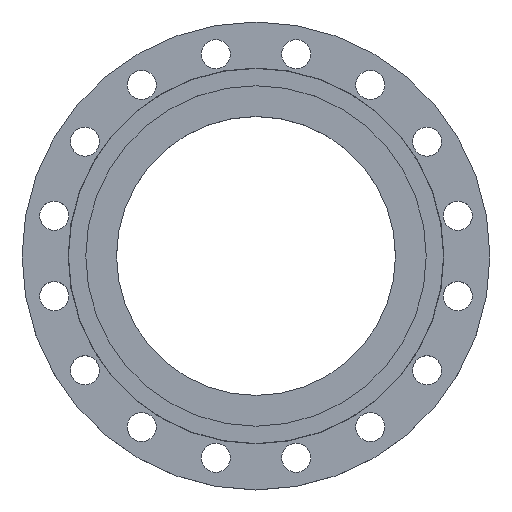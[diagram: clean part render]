
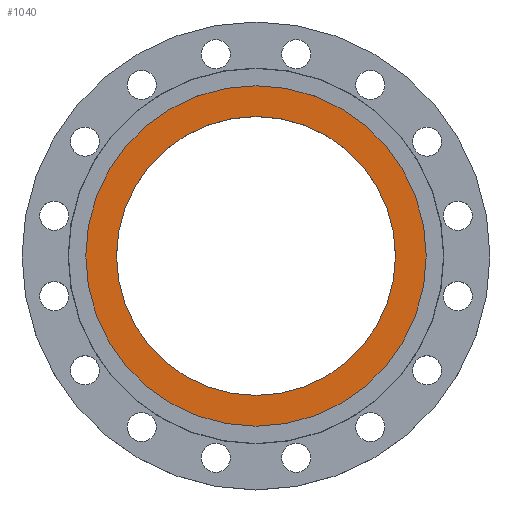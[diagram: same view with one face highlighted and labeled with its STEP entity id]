
A CAD part, top view. The second image highlights one B-rep face of the part: STEP entity #1040.
In plain terms, the highlighted planar face has unit normal (0, 0, 1).
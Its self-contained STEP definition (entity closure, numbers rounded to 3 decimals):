
#22 = DIRECTION ( 'NONE',  ( 1., 0., 0. ) ) ;
#23 = DIRECTION ( 'NONE',  ( 0., 0., 1. ) ) ;
#24 = CARTESIAN_POINT ( 'NONE',  ( 0., 0., -5. ) ) ;
#39 = CIRCLE ( 'NONE', #58, 172.835 ) ;
#58 = AXIS2_PLACEMENT_3D ( 'NONE', #24, #23, #22 ) ;
#105 = EDGE_CURVE ( 'NONE', #815, #1155, #135, .T. ) ;
#127 = CIRCLE ( 'NONE', #526, 211. ) ;
#135 = CIRCLE ( 'NONE', #1050, 172.835 ) ;
#149 = AXIS2_PLACEMENT_3D ( 'NONE', #953, #945, #932 ) ;
#248 = CARTESIAN_POINT ( 'NONE',  ( 211., 0., -5. ) ) ;
#406 = DIRECTION ( 'NONE',  ( 1., 0., 0. ) ) ;
#407 = DIRECTION ( 'NONE',  ( 0., 0., 1. ) ) ;
#410 = CARTESIAN_POINT ( 'NONE',  ( 0., 0., -5. ) ) ;
#508 = VERTEX_POINT ( 'NONE', #248 ) ;
#526 = AXIS2_PLACEMENT_3D ( 'NONE', #1590, #1589, #1588 ) ;
#687 = EDGE_LOOP ( 'NONE', ( #1207, #1208 ) ) ;
#772 = EDGE_CURVE ( 'NONE', #1155, #815, #39, .T. ) ;
#815 = VERTEX_POINT ( 'NONE', #1658 ) ;
#863 = AXIS2_PLACEMENT_3D ( 'NONE', #1491, #1490, #1489 ) ;
#905 = EDGE_CURVE ( 'NONE', #1023, #508, #127, .T. ) ;
#932 = DIRECTION ( 'NONE',  ( -1., 0., 0. ) ) ;
#945 = DIRECTION ( 'NONE',  ( 0., 0., -1. ) ) ;
#953 = CARTESIAN_POINT ( 'NONE',  ( 0., 0., -5. ) ) ;
#1023 = VERTEX_POINT ( 'NONE', #1528 ) ;
#1040 = ADVANCED_FACE ( 'NONE', ( #1494, #1493 ), #1492, .T. ) ;
#1050 = AXIS2_PLACEMENT_3D ( 'NONE', #410, #407, #406 ) ;
#1155 = VERTEX_POINT ( 'NONE', #1319 ) ;
#1205 = ORIENTED_EDGE ( 'NONE', *, *, #772, .F. ) ;
#1206 = ORIENTED_EDGE ( 'NONE', *, *, #105, .F. ) ;
#1207 = ORIENTED_EDGE ( 'NONE', *, *, #905, .F. ) ;
#1208 = ORIENTED_EDGE ( 'NONE', *, *, #1224, .F. ) ;
#1224 = EDGE_CURVE ( 'NONE', #508, #1023, #1317, .T. ) ;
#1317 = CIRCLE ( 'NONE', #149, 211. ) ;
#1319 = CARTESIAN_POINT ( 'NONE',  ( 172.835, 0., -5. ) ) ;
#1366 = EDGE_LOOP ( 'NONE', ( #1205, #1206 ) ) ;
#1489 = DIRECTION ( 'NONE',  ( 1., 0., 0. ) ) ;
#1490 = DIRECTION ( 'NONE',  ( 0., 0., 1. ) ) ;
#1491 = CARTESIAN_POINT ( 'NONE',  ( 211., 0., -5. ) ) ;
#1492 = PLANE ( 'NONE',  #863 ) ;
#1493 = FACE_OUTER_BOUND ( 'NONE', #687, .T. ) ;
#1494 = FACE_BOUND ( 'NONE', #1366, .T. ) ;
#1528 = CARTESIAN_POINT ( 'NONE',  ( -211., 0., -5. ) ) ;
#1588 = DIRECTION ( 'NONE',  ( -1., 0., 0. ) ) ;
#1589 = DIRECTION ( 'NONE',  ( 0., 0., -1. ) ) ;
#1590 = CARTESIAN_POINT ( 'NONE',  ( 0., 0., -5. ) ) ;
#1658 = CARTESIAN_POINT ( 'NONE',  ( -172.835, 0., -5. ) ) ;
